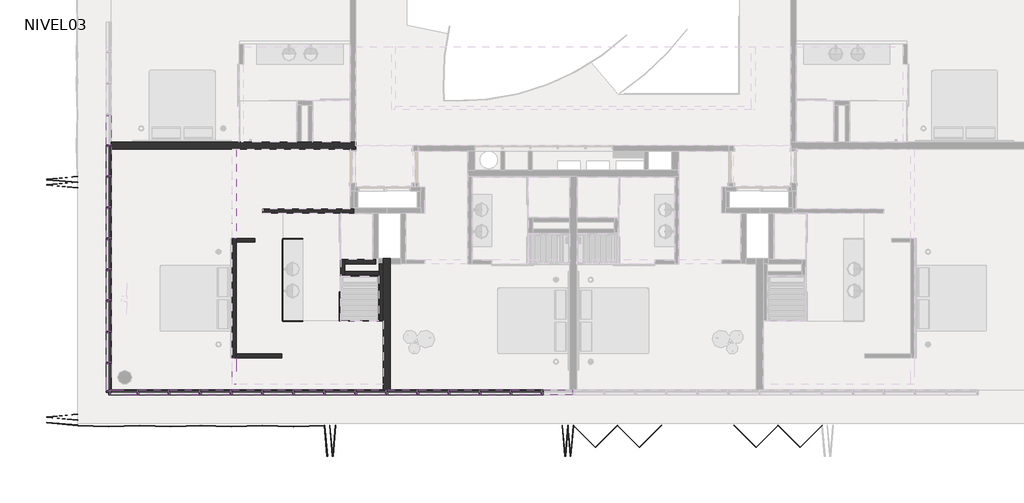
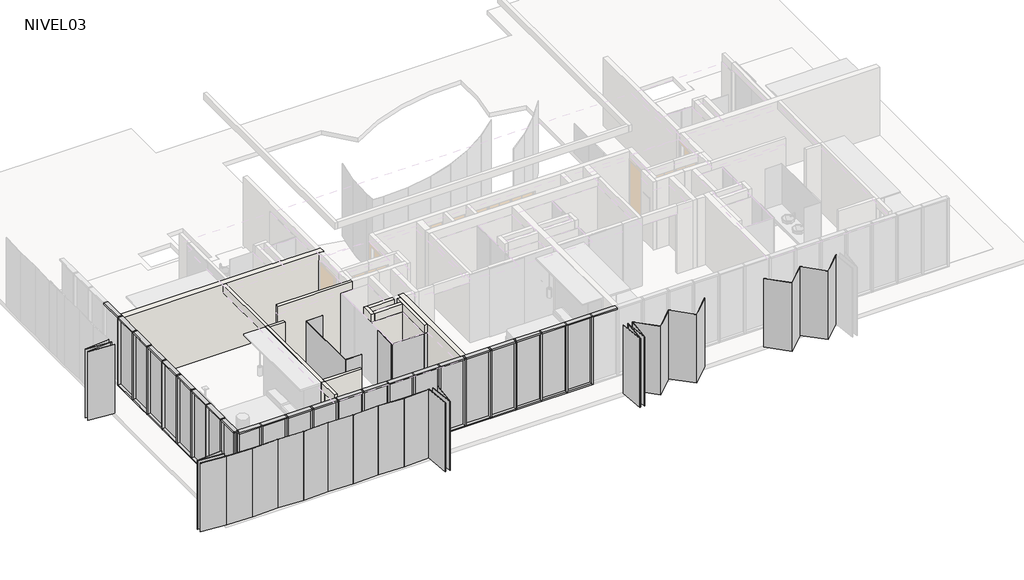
# One storey, part 1 of 8: 70 members, 31 plates, 15 walls.
"""IFC4 building model written with IfcOpenShell, lengths in millimetres."""

from ifc_helpers import new_model, si_unit, frame, origin, place, context, project, spatial, polyline, outline, extrude, faceted_brep, transform, mapped, element, save
from components import rectangular_mullion_50_x_150mm_324a6438, rectangular_mullion_50_x_150mm_d09437e2, rectangular_mullion_50_x_150mm_5dc04e1f, rectangular_mullion_50_x_150mm_33c2bde1, rectangular_mullion_50_x_150mm_da4cfd0d, folding_hd_d22e76f5, folding_hd_folding_hd_45_d1567fec, folding_hd_folding_hd_85_a0ccf00b, folding_hd_folding_hd_85_8b524484, panel_corredera_cr_panel_corredera_0e7ff004, system_panel_cr_shower_eca2249b, system_panel_cr_shower_cd40b9b4, system_panel_cr_shower_8ff19449, system_panel_cr_shower_4114597a, system_panel_glazed_8b1c2311, system_panel_glazed_b40d16d2, system_panel_glazed_24c908d7, system_panel_glazed_6ccc6dc1

model = new_model("IFC4")

# Units and contexts
model_context = context("Model", 3, world=origin())
ifc_project = project(units=[si_unit("LENGTHUNIT", "METRE", prefix="MILLI")], contexts=[model_context])

# Site, building, storey
site = spatial("IfcSite", under=ifc_project)
building = spatial("IfcBuilding", under=site)
storey = spatial("IfcBuildingStorey", under=building, Name="NIVEL03", Elevation=5220.0)

# Members
placement = place(None, origin())
rectangular_mullion_50_x_150mm_shape = rectangular_mullion_50_x_150mm_324a6438(model_context)
element("IfcMember", 1, ObjectType="Rectangular Mullion : 50 x 150mm", at=placement, inside=storey, context=model_context, shape_type="MappedRepresentation", body=[
    mapped(rectangular_mullion_50_x_150mm_shape, transform((-20633.5934748, -241.0860763, 7770.0), x_axis=(0.0, 0.0, 1.0), y_axis=(-1.0, 0.0, 0.0), z_axis=(0.0, -1.0, 0.0))),
])
element("IfcMember", 2, ObjectType="Rectangular Mullion : 50 x 150mm", at=placement, inside=storey, context=model_context, shape_type="MappedRepresentation", body=[
    mapped(rectangular_mullion_50_x_150mm_shape, transform((-20633.5934748, -1141.0860763, 7770.0), x_axis=(0.0, 0.0, 1.0), y_axis=(-1.0, 0.0, 0.0), z_axis=(0.0, -1.0, 0.0))),
])
element("IfcMember", 3, ObjectType="Rectangular Mullion : 50 x 150mm", at=placement, inside=storey, context=model_context, shape_type="MappedRepresentation", body=[
    mapped(rectangular_mullion_50_x_150mm_shape, transform((-20633.5934748, -2041.0860763, 7770.0), x_axis=(0.0, 0.0, 1.0), y_axis=(-1.0, 0.0, 0.0), z_axis=(0.0, -1.0, 0.0))),
])
element("IfcMember", 4, ObjectType="Rectangular Mullion : 50 x 150mm", at=placement, inside=storey, context=model_context, shape_type="MappedRepresentation", body=[
    mapped(rectangular_mullion_50_x_150mm_shape, transform((-20633.5934748, -2941.0860763, 7770.0), x_axis=(0.0, 0.0, 1.0), y_axis=(-1.0, 0.0, 0.0), z_axis=(0.0, -1.0, 0.0))),
])
element("IfcMember", 5, ObjectType="Rectangular Mullion : 50 x 150mm", at=placement, inside=storey, context=model_context, shape_type="MappedRepresentation", body=[
    mapped(rectangular_mullion_50_x_150mm_shape, transform((-20633.5934748, -3841.0860763, 7770.0), x_axis=(0.0, 0.0, 1.0), y_axis=(-1.0, 0.0, 0.0), z_axis=(0.0, -1.0, 0.0))),
])
element("IfcMember", 6, ObjectType="Rectangular Mullion : 50 x 150mm", at=placement, inside=storey, context=model_context, shape_type="MappedRepresentation", body=[
    mapped(rectangular_mullion_50_x_150mm_shape, transform((-20633.5934748, -4741.0860763, 7770.0), x_axis=(0.0, 0.0, 1.0), y_axis=(-1.0, 0.0, 0.0), z_axis=(0.0, -1.0, 0.0))),
])
element("IfcMember", 7, ObjectType="Rectangular Mullion : 50 x 150mm", at=placement, inside=storey, context=model_context, shape_type="MappedRepresentation", body=[
    mapped(rectangular_mullion_50_x_150mm_shape, transform((-20633.5934748, -5641.0860763, 7770.0), x_axis=(0.0, 0.0, 1.0), y_axis=(-1.0, 0.0, 0.0), z_axis=(0.0, -1.0, 0.0))),
])
element("IfcMember", 8, ObjectType="Rectangular Mullion : 50 x 150mm", at=placement, inside=storey, context=model_context, shape_type="MappedRepresentation", body=[
    mapped(rectangular_mullion_50_x_150mm_shape, transform((-20633.5934748, -6541.0860763, 7770.0), x_axis=(0.0, 0.0, 1.0), y_axis=(-1.0, 0.0, 0.0), z_axis=(0.0, -1.0, 0.0))),
])
element("IfcMember", 9, ObjectType="Rectangular Mullion : 50 x 150mm", at=placement, inside=storey, context=model_context, shape_type="MappedRepresentation", body=[
    mapped(rectangular_mullion_50_x_150mm_shape, transform((-20633.5934748, -291.0860763, 5200.0), x_axis=(0.0, 0.0, -1.0), y_axis=(-1.0, 0.0, 0.0), z_axis=(0.0, 1.0, 0.0))),
])
element("IfcMember", 10, ObjectType="Rectangular Mullion : 50 x 150mm", at=placement, inside=storey, context=model_context, shape_type="MappedRepresentation", body=[
    mapped(rectangular_mullion_50_x_150mm_shape, transform((-20633.5934748, -1191.0860763, 5200.0), x_axis=(0.0, 0.0, -1.0), y_axis=(-1.0, 0.0, 0.0), z_axis=(0.0, 1.0, 0.0))),
])
element("IfcMember", 11, ObjectType="Rectangular Mullion : 50 x 150mm", at=placement, inside=storey, context=model_context, shape_type="MappedRepresentation", body=[
    mapped(rectangular_mullion_50_x_150mm_shape, transform((-20633.5934748, -2091.0860763, 5200.0), x_axis=(0.0, 0.0, -1.0), y_axis=(-1.0, 0.0, 0.0), z_axis=(0.0, 1.0, 0.0))),
])
element("IfcMember", 12, ObjectType="Rectangular Mullion : 50 x 150mm", at=placement, inside=storey, context=model_context, shape_type="MappedRepresentation", body=[
    mapped(rectangular_mullion_50_x_150mm_shape, transform((-20633.5934748, -2991.0860763, 5200.0), x_axis=(0.0, 0.0, -1.0), y_axis=(-1.0, 0.0, 0.0), z_axis=(0.0, 1.0, 0.0))),
])
element("IfcMember", 13, ObjectType="Rectangular Mullion : 50 x 150mm", at=placement, inside=storey, context=model_context, shape_type="MappedRepresentation", body=[
    mapped(rectangular_mullion_50_x_150mm_shape, transform((-20633.5934748, -3891.0860763, 5200.0), x_axis=(0.0, 0.0, -1.0), y_axis=(-1.0, 0.0, 0.0), z_axis=(0.0, 1.0, 0.0))),
])
element("IfcMember", 14, ObjectType="Rectangular Mullion : 50 x 150mm", at=placement, inside=storey, context=model_context, shape_type="MappedRepresentation", body=[
    mapped(rectangular_mullion_50_x_150mm_shape, transform((-20633.5934748, -4791.0860763, 5200.0), x_axis=(0.0, 0.0, -1.0), y_axis=(-1.0, 0.0, 0.0), z_axis=(0.0, 1.0, 0.0))),
])
element("IfcMember", 15, ObjectType="Rectangular Mullion : 50 x 150mm", at=placement, inside=storey, context=model_context, shape_type="MappedRepresentation", body=[
    mapped(rectangular_mullion_50_x_150mm_shape, transform((-20633.5934748, -5691.0860763, 5200.0), x_axis=(0.0, 0.0, -1.0), y_axis=(-1.0, 0.0, 0.0), z_axis=(0.0, 1.0, 0.0))),
])
element("IfcMember", 16, ObjectType="Rectangular Mullion : 50 x 150mm", at=placement, inside=storey, context=model_context, shape_type="MappedRepresentation", body=[
    mapped(rectangular_mullion_50_x_150mm_shape, transform((-8058.5934748, -7416.0860759, 7770.0), x_axis=(0.0, 0.0, 1.0), y_axis=(0.0, 1.0, 0.0), z_axis=(-1.0, 0.0, 0.0))),
])
element("IfcMember", 17, ObjectType="Rectangular Mullion : 50 x 150mm", at=placement, inside=storey, context=model_context, shape_type="MappedRepresentation", body=[
    mapped(rectangular_mullion_50_x_150mm_shape, transform((-8958.5934748, -7416.0860759, 7770.0), x_axis=(0.0, 0.0, 1.0), y_axis=(0.0, 1.0, 0.0), z_axis=(-1.0, 0.0, 0.0))),
])
element("IfcMember", 18, ObjectType="Rectangular Mullion : 50 x 150mm", at=placement, inside=storey, context=model_context, shape_type="MappedRepresentation", body=[
    mapped(rectangular_mullion_50_x_150mm_shape, transform((-9858.5934748, -7416.0860759, 7770.0), x_axis=(0.0, 0.0, 1.0), y_axis=(0.0, 1.0, 0.0), z_axis=(-1.0, 0.0, 0.0))),
])
element("IfcMember", 19, ObjectType="Rectangular Mullion : 50 x 150mm", at=placement, inside=storey, context=model_context, shape_type="MappedRepresentation", body=[
    mapped(rectangular_mullion_50_x_150mm_shape, transform((-10758.5934748, -7416.0860759, 7770.0), x_axis=(0.0, 0.0, 1.0), y_axis=(0.0, 1.0, 0.0), z_axis=(-1.0, 0.0, 0.0))),
])
element("IfcMember", 20, ObjectType="Rectangular Mullion : 50 x 150mm", at=placement, inside=storey, context=model_context, shape_type="MappedRepresentation", body=[
    mapped(rectangular_mullion_50_x_150mm_shape, transform((-11658.5934748, -7416.0860759, 7770.0), x_axis=(0.0, 0.0, 1.0), y_axis=(0.0, 1.0, 0.0), z_axis=(-1.0, 0.0, 0.0))),
])
element("IfcMember", 21, ObjectType="Rectangular Mullion : 50 x 150mm", at=placement, inside=storey, context=model_context, shape_type="MappedRepresentation", body=[
    mapped(rectangular_mullion_50_x_150mm_shape, transform((-12558.5934748, -7416.0860759, 7770.0), x_axis=(0.0, 0.0, 1.0), y_axis=(0.0, 1.0, 0.0), z_axis=(-1.0, 0.0, 0.0))),
])
element("IfcMember", 22, ObjectType="Rectangular Mullion : 50 x 150mm", at=placement, inside=storey, context=model_context, shape_type="MappedRepresentation", body=[
    mapped(rectangular_mullion_50_x_150mm_shape, transform((-13458.5934748, -7416.0860759, 7770.0), x_axis=(0.0, 0.0, 1.0), y_axis=(0.0, 1.0, 0.0), z_axis=(-1.0, 0.0, 0.0))),
])
element("IfcMember", 23, ObjectType="Rectangular Mullion : 50 x 150mm", at=placement, inside=storey, context=model_context, shape_type="MappedRepresentation", body=[
    mapped(rectangular_mullion_50_x_150mm_shape, transform((-14358.5934748, -7416.0860759, 7770.0), x_axis=(0.0, 0.0, 1.0), y_axis=(0.0, 1.0, 0.0), z_axis=(-1.0, 0.0, 0.0))),
])
element("IfcMember", 24, ObjectType="Rectangular Mullion : 50 x 150mm", at=placement, inside=storey, context=model_context, shape_type="MappedRepresentation", body=[
    mapped(rectangular_mullion_50_x_150mm_shape, transform((-15258.5934748, -7416.0860759, 7770.0), x_axis=(0.0, 0.0, 1.0), y_axis=(0.0, 1.0, 0.0), z_axis=(-1.0, 0.0, 0.0))),
])
element("IfcMember", 25, ObjectType="Rectangular Mullion : 50 x 150mm", at=placement, inside=storey, context=model_context, shape_type="MappedRepresentation", body=[
    mapped(rectangular_mullion_50_x_150mm_shape, transform((-16158.5934748, -7416.0860759, 7770.0), x_axis=(0.0, 0.0, 1.0), y_axis=(0.0, 1.0, 0.0), z_axis=(-1.0, 0.0, 0.0))),
])
element("IfcMember", 26, ObjectType="Rectangular Mullion : 50 x 150mm", at=placement, inside=storey, context=model_context, shape_type="MappedRepresentation", body=[
    mapped(rectangular_mullion_50_x_150mm_shape, transform((-17058.5934748, -7416.0860759, 7770.0), x_axis=(0.0, 0.0, 1.0), y_axis=(0.0, 1.0, 0.0), z_axis=(-1.0, 0.0, 0.0))),
])
element("IfcMember", 27, ObjectType="Rectangular Mullion : 50 x 150mm", at=placement, inside=storey, context=model_context, shape_type="MappedRepresentation", body=[
    mapped(rectangular_mullion_50_x_150mm_shape, transform((-17958.5934748, -7416.0860759, 7770.0), x_axis=(0.0, 0.0, 1.0), y_axis=(0.0, 1.0, 0.0), z_axis=(-1.0, 0.0, 0.0))),
])
element("IfcMember", 28, ObjectType="Rectangular Mullion : 50 x 150mm", at=placement, inside=storey, context=model_context, shape_type="MappedRepresentation", body=[
    mapped(rectangular_mullion_50_x_150mm_shape, transform((-18858.5934748, -7416.0860759, 7770.0), x_axis=(0.0, 0.0, 1.0), y_axis=(0.0, 1.0, 0.0), z_axis=(-1.0, 0.0, 0.0))),
])
element("IfcMember", 29, ObjectType="Rectangular Mullion : 50 x 150mm", at=placement, inside=storey, context=model_context, shape_type="MappedRepresentation", body=[
    mapped(rectangular_mullion_50_x_150mm_shape, transform((-19758.5934748, -7416.0860759, 7770.0), x_axis=(0.0, 0.0, 1.0), y_axis=(0.0, 1.0, 0.0), z_axis=(-1.0, 0.0, 0.0))),
])
element("IfcMember", 30, ObjectType="Rectangular Mullion : 50 x 150mm", at=placement, inside=storey, context=model_context, shape_type="MappedRepresentation", body=[
    mapped(rectangular_mullion_50_x_150mm_shape, transform((-8108.5934748, -7416.0860759, 5200.0), x_axis=(0.0, 0.0, -1.0), y_axis=(0.0, 1.0, 0.0), z_axis=(1.0, 0.0, 0.0))),
])
element("IfcMember", 31, ObjectType="Rectangular Mullion : 50 x 150mm", at=placement, inside=storey, context=model_context, shape_type="MappedRepresentation", body=[
    mapped(rectangular_mullion_50_x_150mm_shape, transform((-9008.5934748, -7416.0860759, 5200.0), x_axis=(0.0, 0.0, -1.0), y_axis=(0.0, 1.0, 0.0), z_axis=(1.0, 0.0, 0.0))),
])
element("IfcMember", 32, ObjectType="Rectangular Mullion : 50 x 150mm", at=placement, inside=storey, context=model_context, shape_type="MappedRepresentation", body=[
    mapped(rectangular_mullion_50_x_150mm_shape, transform((-9908.5934748, -7416.0860759, 5200.0), x_axis=(0.0, 0.0, -1.0), y_axis=(0.0, 1.0, 0.0), z_axis=(1.0, 0.0, 0.0))),
])
element("IfcMember", 33, ObjectType="Rectangular Mullion : 50 x 150mm", at=placement, inside=storey, context=model_context, shape_type="MappedRepresentation", body=[
    mapped(rectangular_mullion_50_x_150mm_shape, transform((-10808.5934748, -7416.0860759, 5200.0), x_axis=(0.0, 0.0, -1.0), y_axis=(0.0, 1.0, 0.0), z_axis=(1.0, 0.0, 0.0))),
])
element("IfcMember", 34, ObjectType="Rectangular Mullion : 50 x 150mm", at=placement, inside=storey, context=model_context, shape_type="MappedRepresentation", body=[
    mapped(rectangular_mullion_50_x_150mm_shape, transform((-11708.5934748, -7416.0860759, 5200.0), x_axis=(0.0, 0.0, -1.0), y_axis=(0.0, 1.0, 0.0), z_axis=(1.0, 0.0, 0.0))),
])
element("IfcMember", 35, ObjectType="Rectangular Mullion : 50 x 150mm", at=placement, inside=storey, context=model_context, shape_type="MappedRepresentation", body=[
    mapped(rectangular_mullion_50_x_150mm_shape, transform((-12608.5934748, -7416.0860759, 5200.0), x_axis=(0.0, 0.0, -1.0), y_axis=(0.0, 1.0, 0.0), z_axis=(1.0, 0.0, 0.0))),
])
element("IfcMember", 36, ObjectType="Rectangular Mullion : 50 x 150mm", at=placement, inside=storey, context=model_context, shape_type="MappedRepresentation", body=[
    mapped(rectangular_mullion_50_x_150mm_shape, transform((-13508.5934748, -7416.0860759, 5200.0), x_axis=(0.0, 0.0, -1.0), y_axis=(0.0, 1.0, 0.0), z_axis=(1.0, 0.0, 0.0))),
])
element("IfcMember", 37, ObjectType="Rectangular Mullion : 50 x 150mm", at=placement, inside=storey, context=model_context, shape_type="MappedRepresentation", body=[
    mapped(rectangular_mullion_50_x_150mm_shape, transform((-14408.5934748, -7416.0860759, 5200.0), x_axis=(0.0, 0.0, -1.0), y_axis=(0.0, 1.0, 0.0), z_axis=(1.0, 0.0, 0.0))),
])
element("IfcMember", 38, ObjectType="Rectangular Mullion : 50 x 150mm", at=placement, inside=storey, context=model_context, shape_type="MappedRepresentation", body=[
    mapped(rectangular_mullion_50_x_150mm_shape, transform((-15308.5934748, -7416.0860759, 5200.0), x_axis=(0.0, 0.0, -1.0), y_axis=(0.0, 1.0, 0.0), z_axis=(1.0, 0.0, 0.0))),
])
element("IfcMember", 39, ObjectType="Rectangular Mullion : 50 x 150mm", at=placement, inside=storey, context=model_context, shape_type="MappedRepresentation", body=[
    mapped(rectangular_mullion_50_x_150mm_shape, transform((-16208.5934748, -7416.0860759, 5200.0), x_axis=(0.0, 0.0, -1.0), y_axis=(0.0, 1.0, 0.0), z_axis=(1.0, 0.0, 0.0))),
])
element("IfcMember", 40, ObjectType="Rectangular Mullion : 50 x 150mm", at=placement, inside=storey, context=model_context, shape_type="MappedRepresentation", body=[
    mapped(rectangular_mullion_50_x_150mm_shape, transform((-17108.5934748, -7416.0860759, 5200.0), x_axis=(0.0, 0.0, -1.0), y_axis=(0.0, 1.0, 0.0), z_axis=(1.0, 0.0, 0.0))),
])
element("IfcMember", 41, ObjectType="Rectangular Mullion : 50 x 150mm", at=placement, inside=storey, context=model_context, shape_type="MappedRepresentation", body=[
    mapped(rectangular_mullion_50_x_150mm_shape, transform((-18008.5934748, -7416.0860759, 5200.0), x_axis=(0.0, 0.0, -1.0), y_axis=(0.0, 1.0, 0.0), z_axis=(1.0, 0.0, 0.0))),
])
element("IfcMember", 42, ObjectType="Rectangular Mullion : 50 x 150mm", at=placement, inside=storey, context=model_context, shape_type="MappedRepresentation", body=[
    mapped(rectangular_mullion_50_x_150mm_shape, transform((-18908.5934748, -7416.0860759, 5200.0), x_axis=(0.0, 0.0, -1.0), y_axis=(0.0, 1.0, 0.0), z_axis=(1.0, 0.0, 0.0))),
])
rectangular_mullion_50_x_150mm_2_shape = rectangular_mullion_50_x_150mm_d09437e2(model_context)
element("IfcMember", 43, ObjectType="Rectangular Mullion : 50 x 150mm", at=placement, inside=storey, context=model_context, shape_type="MappedRepresentation", body=[
    mapped(rectangular_mullion_50_x_150mm_2_shape, transform((-20633.5934748, -7366.0860759, 7770.0), x_axis=(0.0, 0.0, 1.0), y_axis=(-1.0, 0.0, 0.0), z_axis=(0.0, -1.0, 0.0))),
])
element("IfcMember", 44, ObjectType="Rectangular Mullion : 50 x 150mm", at=placement, inside=storey, context=model_context, shape_type="MappedRepresentation", body=[
    mapped(rectangular_mullion_50_x_150mm_2_shape, transform((-20633.5934748, -6591.0860763, 5200.0), x_axis=(0.0, 0.0, -1.0), y_axis=(-1.0, 0.0, 0.0), z_axis=(0.0, 1.0, 0.0))),
])
rectangular_mullion_50_x_150mm_3_shape = rectangular_mullion_50_x_150mm_5dc04e1f(model_context)
element("IfcMember", 45, ObjectType="Rectangular Mullion : 50 x 150mm", at=placement, inside=storey, context=model_context, shape_type="MappedRepresentation", body=[
    mapped(rectangular_mullion_50_x_150mm_3_shape, transform((-20583.5934748, -7416.0860759, 7770.0), x_axis=(0.0, 0.0, 1.0), y_axis=(0.0, 1.0, 0.0), z_axis=(-1.0, 0.0, 0.0))),
])
element("IfcMember", 46, ObjectType="Rectangular Mullion : 50 x 150mm", at=placement, inside=storey, context=model_context, shape_type="MappedRepresentation", body=[
    mapped(rectangular_mullion_50_x_150mm_3_shape, transform((-19808.5934748, -7416.0860759, 5200.0), x_axis=(0.0, 0.0, -1.0), y_axis=(0.0, 1.0, 0.0), z_axis=(1.0, 0.0, 0.0))),
])
rectangular_mullion_50_x_150mm_4_shape = rectangular_mullion_50_x_150mm_33c2bde1(model_context)
element("IfcMember", 47, ObjectType="Rectangular Mullion : 50 x 150mm", at=placement, inside=storey, context=model_context, shape_type="MappedRepresentation", body=[
    mapped(rectangular_mullion_50_x_150mm_4_shape, transform((-20633.5934748, -266.0860763, 5200.0), x_axis=(0.0, -1.0, 0.0), y_axis=(-1.0, 0.0, 0.0), z_axis=(0.0, 0.0, -1.0))),
])
element("IfcMember", 48, ObjectType="Rectangular Mullion : 50 x 150mm", at=placement, inside=storey, context=model_context, shape_type="MappedRepresentation", body=[
    mapped(rectangular_mullion_50_x_150mm_4_shape, transform((-20633.5934748, -1166.0860763, 5200.0), x_axis=(0.0, -1.0, 0.0), y_axis=(-1.0, 0.0, 0.0), z_axis=(0.0, 0.0, -1.0))),
])
element("IfcMember", 49, ObjectType="Rectangular Mullion : 50 x 150mm", at=placement, inside=storey, context=model_context, shape_type="MappedRepresentation", body=[
    mapped(rectangular_mullion_50_x_150mm_4_shape, transform((-20633.5934748, -2066.0860763, 5200.0), x_axis=(0.0, -1.0, 0.0), y_axis=(-1.0, 0.0, 0.0), z_axis=(0.0, 0.0, -1.0))),
])
element("IfcMember", 50, ObjectType="Rectangular Mullion : 50 x 150mm", at=placement, inside=storey, context=model_context, shape_type="MappedRepresentation", body=[
    mapped(rectangular_mullion_50_x_150mm_4_shape, transform((-20633.5934748, -2966.0860763, 5200.0), x_axis=(0.0, -1.0, 0.0), y_axis=(-1.0, 0.0, 0.0), z_axis=(0.0, 0.0, -1.0))),
])
element("IfcMember", 51, ObjectType="Rectangular Mullion : 50 x 150mm", at=placement, inside=storey, context=model_context, shape_type="MappedRepresentation", body=[
    mapped(rectangular_mullion_50_x_150mm_4_shape, transform((-20633.5934748, -3866.0860763, 5200.0), x_axis=(0.0, -1.0, 0.0), y_axis=(-1.0, 0.0, 0.0), z_axis=(0.0, 0.0, -1.0))),
])
element("IfcMember", 52, ObjectType="Rectangular Mullion : 50 x 150mm", at=placement, inside=storey, context=model_context, shape_type="MappedRepresentation", body=[
    mapped(rectangular_mullion_50_x_150mm_4_shape, transform((-20633.5934748, -4766.0860763, 5200.0), x_axis=(0.0, -1.0, 0.0), y_axis=(-1.0, 0.0, 0.0), z_axis=(0.0, 0.0, -1.0))),
])
element("IfcMember", 53, ObjectType="Rectangular Mullion : 50 x 150mm", at=placement, inside=storey, context=model_context, shape_type="MappedRepresentation", body=[
    mapped(rectangular_mullion_50_x_150mm_4_shape, transform((-20633.5934748, -5666.0860763, 5200.0), x_axis=(0.0, -1.0, 0.0), y_axis=(-1.0, 0.0, 0.0), z_axis=(0.0, 0.0, -1.0))),
])
element("IfcMember", 54, ObjectType="Rectangular Mullion : 50 x 150mm", at=placement, inside=storey, context=model_context, shape_type="MappedRepresentation", body=[
    mapped(rectangular_mullion_50_x_150mm_4_shape, transform((-20633.5934748, -6566.0860763, 5200.0), x_axis=(0.0, -1.0, 0.0), y_axis=(-1.0, 0.0, 0.0), z_axis=(0.0, 0.0, -1.0))),
])
rectangular_mullion_50_x_150mm_5_shape = rectangular_mullion_50_x_150mm_da4cfd0d(model_context)
element("IfcMember", 55, ObjectType="Rectangular Mullion : 50 x 150mm", at=placement, inside=storey, context=model_context, shape_type="MappedRepresentation", body=[
    mapped(rectangular_mullion_50_x_150mm_5_shape, transform((-20633.5934748, -7416.0860759, 5200.0), x_axis=(0.0, -1.0, 0.0), y_axis=(-1.0, 0.0, 0.0), z_axis=(0.0, 0.0, -1.0))),
])
element("IfcMember", 56, ObjectType="Rectangular Mullion : 50 x 150mm", at=placement, inside=storey, context=model_context, shape_type="MappedRepresentation", body=[
    mapped(rectangular_mullion_50_x_150mm_4_shape, transform((-8083.5934748, -7416.0860759, 5200.0), x_axis=(-1.0, 0.0, 0.0), y_axis=(0.0, 1.0, 0.0), z_axis=(0.0, 0.0, -1.0))),
])
element("IfcMember", 57, ObjectType="Rectangular Mullion : 50 x 150mm", at=placement, inside=storey, context=model_context, shape_type="MappedRepresentation", body=[
    mapped(rectangular_mullion_50_x_150mm_4_shape, transform((-8983.5934748, -7416.0860759, 5200.0), x_axis=(-1.0, 0.0, 0.0), y_axis=(0.0, 1.0, 0.0), z_axis=(0.0, 0.0, -1.0))),
])
element("IfcMember", 58, ObjectType="Rectangular Mullion : 50 x 150mm", at=placement, inside=storey, context=model_context, shape_type="MappedRepresentation", body=[
    mapped(rectangular_mullion_50_x_150mm_4_shape, transform((-9883.5934748, -7416.0860759, 5200.0), x_axis=(-1.0, 0.0, 0.0), y_axis=(0.0, 1.0, 0.0), z_axis=(0.0, 0.0, -1.0))),
])
element("IfcMember", 59, ObjectType="Rectangular Mullion : 50 x 150mm", at=placement, inside=storey, context=model_context, shape_type="MappedRepresentation", body=[
    mapped(rectangular_mullion_50_x_150mm_4_shape, transform((-10783.5934748, -7416.0860759, 5200.0), x_axis=(-1.0, 0.0, 0.0), y_axis=(0.0, 1.0, 0.0), z_axis=(0.0, 0.0, -1.0))),
])
element("IfcMember", 60, ObjectType="Rectangular Mullion : 50 x 150mm", at=placement, inside=storey, context=model_context, shape_type="MappedRepresentation", body=[
    mapped(rectangular_mullion_50_x_150mm_4_shape, transform((-11683.5934748, -7416.0860759, 5200.0), x_axis=(-1.0, 0.0, 0.0), y_axis=(0.0, 1.0, 0.0), z_axis=(0.0, 0.0, -1.0))),
])
element("IfcMember", 61, ObjectType="Rectangular Mullion : 50 x 150mm", at=placement, inside=storey, context=model_context, shape_type="MappedRepresentation", body=[
    mapped(rectangular_mullion_50_x_150mm_4_shape, transform((-12583.5934748, -7416.0860759, 5200.0), x_axis=(-1.0, 0.0, 0.0), y_axis=(0.0, 1.0, 0.0), z_axis=(0.0, 0.0, -1.0))),
])
element("IfcMember", 62, ObjectType="Rectangular Mullion : 50 x 150mm", at=placement, inside=storey, context=model_context, shape_type="MappedRepresentation", body=[
    mapped(rectangular_mullion_50_x_150mm_4_shape, transform((-13483.5934748, -7416.0860759, 5200.0), x_axis=(-1.0, 0.0, 0.0), y_axis=(0.0, 1.0, 0.0), z_axis=(0.0, 0.0, -1.0))),
])
element("IfcMember", 63, ObjectType="Rectangular Mullion : 50 x 150mm", at=placement, inside=storey, context=model_context, shape_type="MappedRepresentation", body=[
    mapped(rectangular_mullion_50_x_150mm_4_shape, transform((-14383.5934748, -7416.0860759, 5200.0), x_axis=(-1.0, 0.0, 0.0), y_axis=(0.0, 1.0, 0.0), z_axis=(0.0, 0.0, -1.0))),
])
element("IfcMember", 64, ObjectType="Rectangular Mullion : 50 x 150mm", at=placement, inside=storey, context=model_context, shape_type="MappedRepresentation", body=[
    mapped(rectangular_mullion_50_x_150mm_4_shape, transform((-15283.5934748, -7416.0860759, 5200.0), x_axis=(-1.0, 0.0, 0.0), y_axis=(0.0, 1.0, 0.0), z_axis=(0.0, 0.0, -1.0))),
])
element("IfcMember", 65, ObjectType="Rectangular Mullion : 50 x 150mm", at=placement, inside=storey, context=model_context, shape_type="MappedRepresentation", body=[
    mapped(rectangular_mullion_50_x_150mm_4_shape, transform((-16183.5934748, -7416.0860759, 5200.0), x_axis=(-1.0, 0.0, 0.0), y_axis=(0.0, 1.0, 0.0), z_axis=(0.0, 0.0, -1.0))),
])
element("IfcMember", 66, ObjectType="Rectangular Mullion : 50 x 150mm", at=placement, inside=storey, context=model_context, shape_type="MappedRepresentation", body=[
    mapped(rectangular_mullion_50_x_150mm_4_shape, transform((-17083.5934748, -7416.0860759, 5200.0), x_axis=(-1.0, 0.0, 0.0), y_axis=(0.0, 1.0, 0.0), z_axis=(0.0, 0.0, -1.0))),
])
element("IfcMember", 67, ObjectType="Rectangular Mullion : 50 x 150mm", at=placement, inside=storey, context=model_context, shape_type="MappedRepresentation", body=[
    mapped(rectangular_mullion_50_x_150mm_4_shape, transform((-17983.5934748, -7416.0860759, 5200.0), x_axis=(-1.0, 0.0, 0.0), y_axis=(0.0, 1.0, 0.0), z_axis=(0.0, 0.0, -1.0))),
])
element("IfcMember", 68, ObjectType="Rectangular Mullion : 50 x 150mm", at=placement, inside=storey, context=model_context, shape_type="MappedRepresentation", body=[
    mapped(rectangular_mullion_50_x_150mm_4_shape, transform((-18883.5934748, -7416.0860759, 5200.0), x_axis=(-1.0, 0.0, 0.0), y_axis=(0.0, 1.0, 0.0), z_axis=(0.0, 0.0, -1.0))),
])
element("IfcMember", 69, ObjectType="Rectangular Mullion : 50 x 150mm", at=placement, inside=storey, context=model_context, shape_type="MappedRepresentation", body=[
    mapped(rectangular_mullion_50_x_150mm_4_shape, transform((-19783.5934748, -7416.0860759, 5200.0), x_axis=(-1.0, 0.0, 0.0), y_axis=(0.0, 1.0, 0.0), z_axis=(0.0, 0.0, -1.0))),
])
element("IfcMember", 70, ObjectType="Rectangular Mullion : 50 x 150mm", at=placement, inside=storey, context=model_context, shape_type="MappedRepresentation", body=[
    mapped(rectangular_mullion_50_x_150mm_5_shape, transform((-20633.5934748, -7416.0860759, 5200.0), x_axis=(-1.0, 0.0, 0.0), y_axis=(0.0, 1.0, 0.0), z_axis=(0.0, 0.0, -1.0))),
])

# Plates
folding_hd_shape = folding_hd_d22e76f5(model_context)
element("IfcPlate", 71, ObjectType="FOLDING HD : FOLDING HD-90-2°", at=placement, inside=storey, context=model_context, shape_type="MappedRepresentation", body=[
    mapped(folding_hd_shape, transform((-17958.5934748, -8366.0860759, 5200.0), x_axis=(-1.0, 0.0, 0.0), y_axis=(0.0, -1.0, 0.0), z_axis=(0.0, 0.0, 1.0))),
])
folding_hd_folding_hd_45_shape = folding_hd_folding_hd_45_d1567fec(model_context)
element("IfcPlate", 72, ObjectType="FOLDING HD : FOLDING HD 45", at=placement, inside=storey, context=model_context, shape_type="MappedRepresentation", body=[
    mapped(folding_hd_folding_hd_45_shape, transform((-3583.5934748, -8366.0860759, 5200.0), x_axis=(-1.0, 0.0, 0.0), y_axis=(0.0, -1.0, 0.0), z_axis=(0.0, 0.0, 1.0))),
])
folding_hd_folding_hd_85_shape = folding_hd_folding_hd_85_a0ccf00b(model_context)
element("IfcPlate", 73, ObjectType="FOLDING HD : FOLDING HD 85", at=placement, inside=storey, context=model_context, shape_type="MappedRepresentation", body=[
    mapped(folding_hd_folding_hd_85_shape, transform((-10783.5934748, -8366.0860759, 5200.0), x_axis=(-1.0, 0.0, 0.0), y_axis=(0.0, -1.0, 0.0), z_axis=(0.0, 0.0, 1.0))),
])
folding_hd_folding_hd_85_2_shape = folding_hd_folding_hd_85_8b524484(model_context)
element("IfcPlate", 74, ObjectType="FOLDING HD : FOLDING HD 85", at=placement, inside=storey, context=model_context, shape_type="MappedRepresentation", body=[
    mapped(folding_hd_folding_hd_85_2_shape, transform((-21533.5934748, -4766.0860759, 5200.0), x_axis=(0.0, -1.0, 0.0), y_axis=(1.0, 0.0, 0.0), z_axis=(0.0, 0.0, 1.0))),
])
panel_corredera_cr_panel_corredera_shape = panel_corredera_cr_panel_corredera_0e7ff004(model_context)
element("IfcPlate", 75, ObjectType="PANEL CORREDERA : CR_PANEL CORREDERA", at=placement, inside=storey, context=model_context, shape_type="MappedRepresentation", body=[
    mapped(panel_corredera_cr_panel_corredera_shape, transform((-13913.6434748, -4991.5697221, 5220.0), x_axis=(0.0, 1.0, 0.0), y_axis=(-1.0, 0.0, 0.0), z_axis=(0.0, 0.0, 1.0))),
])
system_panel_cr_shower_shape = system_panel_cr_shower_eca2249b(model_context)
element("IfcPlate", 76, ObjectType="System Panel : CR-SHOWER", at=placement, inside=storey, context=model_context, shape_type="MappedRepresentation", body=[
    mapped(system_panel_cr_shower_shape, transform((-13298.6184748, -5336.1362189, 5220.0), x_axis=(-1.0, 0.0, 0.0), y_axis=(0.0, -1.0, 0.0), z_axis=(0.0, 0.0, 1.0))),
])
system_panel_cr_shower_2_shape = system_panel_cr_shower_cd40b9b4(model_context)
element("IfcPlate", 77, ObjectType="System Panel : CR-SHOWER", at=placement, inside=storey, context=model_context, shape_type="MappedRepresentation", body=[
    mapped(system_panel_cr_shower_2_shape, transform((-15593.5934748, -4164.8462541, 5220.0), x_axis=(0.0, 1.0, 0.0), y_axis=(-1.0, 0.0, 0.0), z_axis=(0.0, 0.0, 1.0))),
])
system_panel_cr_shower_3_shape = system_panel_cr_shower_8ff19449(model_context)
element("IfcPlate", 78, ObjectType="System Panel : CR-SHOWER", at=placement, inside=storey, context=model_context, shape_type="MappedRepresentation", body=[
    mapped(system_panel_cr_shower_3_shape, transform((-15303.5934748, -5348.5862189, 5220.0), x_axis=(-1.0, 0.0, 0.0), y_axis=(0.0, -1.0, 0.0), z_axis=(0.0, 0.0, 1.0))),
])
system_panel_cr_shower_4_shape = system_panel_cr_shower_4114597a(model_context)
element("IfcPlate", 79, ObjectType="System Panel : CR-SHOWER", at=placement, inside=storey, context=model_context, shape_type="MappedRepresentation", body=[
    mapped(system_panel_cr_shower_4_shape, transform((-15303.5934748, -2966.0860763, 5220.0), x_axis=(-1.0, 0.0, 0.0), y_axis=(0.0, -1.0, 0.0), z_axis=(0.0, 0.0, 1.0))),
])
system_panel_glazed_shape = system_panel_glazed_8b1c2311(model_context)
element("IfcPlate", 80, ObjectType="System Panel : Glazed", at=placement, inside=storey, context=model_context, shape_type="MappedRepresentation", body=[
    mapped(system_panel_glazed_shape, transform((-20633.5934748, -716.0860763, 5250.0), x_axis=(0.0, -1.0, 0.0), y_axis=(1.0, 0.0, 0.0), z_axis=(0.0, 0.0, 1.0))),
])
element("IfcPlate", 81, ObjectType="System Panel : Glazed", at=placement, inside=storey, context=model_context, shape_type="MappedRepresentation", body=[
    mapped(system_panel_glazed_shape, transform((-20633.5934748, -1616.0860763, 5250.0), x_axis=(0.0, -1.0, 0.0), y_axis=(1.0, 0.0, 0.0), z_axis=(0.0, 0.0, 1.0))),
])
element("IfcPlate", 82, ObjectType="System Panel : Glazed", at=placement, inside=storey, context=model_context, shape_type="MappedRepresentation", body=[
    mapped(system_panel_glazed_shape, transform((-20633.5934748, -2516.0860763, 5250.0), x_axis=(0.0, -1.0, 0.0), y_axis=(1.0, 0.0, 0.0), z_axis=(0.0, 0.0, 1.0))),
])
element("IfcPlate", 83, ObjectType="System Panel : Glazed", at=placement, inside=storey, context=model_context, shape_type="MappedRepresentation", body=[
    mapped(system_panel_glazed_shape, transform((-20633.5934748, -3416.0860763, 5250.0), x_axis=(0.0, -1.0, 0.0), y_axis=(1.0, 0.0, 0.0), z_axis=(0.0, 0.0, 1.0))),
])
element("IfcPlate", 84, ObjectType="System Panel : Glazed", at=placement, inside=storey, context=model_context, shape_type="MappedRepresentation", body=[
    mapped(system_panel_glazed_shape, transform((-20633.5934748, -4316.0860763, 5250.0), x_axis=(0.0, -1.0, 0.0), y_axis=(1.0, 0.0, 0.0), z_axis=(0.0, 0.0, 1.0))),
])
element("IfcPlate", 85, ObjectType="System Panel : Glazed", at=placement, inside=storey, context=model_context, shape_type="MappedRepresentation", body=[
    mapped(system_panel_glazed_shape, transform((-20633.5934748, -5216.0860763, 5250.0), x_axis=(0.0, -1.0, 0.0), y_axis=(1.0, 0.0, 0.0), z_axis=(0.0, 0.0, 1.0))),
])
element("IfcPlate", 86, ObjectType="System Panel : Glazed", at=placement, inside=storey, context=model_context, shape_type="MappedRepresentation", body=[
    mapped(system_panel_glazed_shape, transform((-20633.5934748, -6116.0860763, 5250.0), x_axis=(0.0, -1.0, 0.0), y_axis=(1.0, 0.0, 0.0), z_axis=(0.0, 0.0, 1.0))),
])
system_panel_glazed_2_shape = system_panel_glazed_b40d16d2(model_context)
element("IfcPlate", 87, ObjectType="System Panel : Glazed", at=placement, inside=storey, context=model_context, shape_type="MappedRepresentation", body=[
    mapped(system_panel_glazed_2_shape, transform((-20633.5934748, -6978.5860761, 5250.0), x_axis=(0.0, -1.0, 0.0), y_axis=(1.0, 0.0, 0.0), z_axis=(0.0, 0.0, 1.0))),
])
system_panel_glazed_3_shape = system_panel_glazed_24c908d7(model_context)
element("IfcPlate", 88, ObjectType="System Panel : Glazed", at=placement, inside=storey, context=model_context, shape_type="MappedRepresentation", body=[
    mapped(system_panel_glazed_3_shape, transform((-20196.0934748, -7416.0860759, 5250.0), x_axis=(-1.0, 0.0, 0.0), y_axis=(0.0, -1.0, 0.0), z_axis=(0.0, 0.0, 1.0))),
])
system_panel_glazed_4_shape = system_panel_glazed_6ccc6dc1(model_context)
element("IfcPlate", 89, ObjectType="System Panel : Glazed", at=placement, inside=storey, context=model_context, shape_type="MappedRepresentation", body=[
    mapped(system_panel_glazed_4_shape, transform((-8533.5934748, -7416.0860759, 5250.0), x_axis=(-1.0, 0.0, 0.0), y_axis=(0.0, -1.0, 0.0), z_axis=(0.0, 0.0, 1.0))),
])
element("IfcPlate", 90, ObjectType="System Panel : Glazed", at=placement, inside=storey, context=model_context, shape_type="MappedRepresentation", body=[
    mapped(system_panel_glazed_4_shape, transform((-9433.5934748, -7416.0860759, 5250.0), x_axis=(-1.0, 0.0, 0.0), y_axis=(0.0, -1.0, 0.0), z_axis=(0.0, 0.0, 1.0))),
])
element("IfcPlate", 91, ObjectType="System Panel : Glazed", at=placement, inside=storey, context=model_context, shape_type="MappedRepresentation", body=[
    mapped(system_panel_glazed_4_shape, transform((-10333.5934748, -7416.0860759, 5250.0), x_axis=(-1.0, 0.0, 0.0), y_axis=(0.0, -1.0, 0.0), z_axis=(0.0, 0.0, 1.0))),
])
element("IfcPlate", 92, ObjectType="System Panel : Glazed", at=placement, inside=storey, context=model_context, shape_type="MappedRepresentation", body=[
    mapped(system_panel_glazed_4_shape, transform((-11233.5934748, -7416.0860759, 5250.0), x_axis=(-1.0, 0.0, 0.0), y_axis=(0.0, -1.0, 0.0), z_axis=(0.0, 0.0, 1.0))),
])
element("IfcPlate", 93, ObjectType="System Panel : Glazed", at=placement, inside=storey, context=model_context, shape_type="MappedRepresentation", body=[
    mapped(system_panel_glazed_4_shape, transform((-12133.5934748, -7416.0860759, 5250.0), x_axis=(-1.0, 0.0, 0.0), y_axis=(0.0, -1.0, 0.0), z_axis=(0.0, 0.0, 1.0))),
])
element("IfcPlate", 94, ObjectType="System Panel : Glazed", at=placement, inside=storey, context=model_context, shape_type="MappedRepresentation", body=[
    mapped(system_panel_glazed_4_shape, transform((-13033.5934748, -7416.0860759, 5250.0), x_axis=(-1.0, 0.0, 0.0), y_axis=(0.0, -1.0, 0.0), z_axis=(0.0, 0.0, 1.0))),
])
element("IfcPlate", 95, ObjectType="System Panel : Glazed", at=placement, inside=storey, context=model_context, shape_type="MappedRepresentation", body=[
    mapped(system_panel_glazed_4_shape, transform((-13933.5934748, -7416.0860759, 5250.0), x_axis=(-1.0, 0.0, 0.0), y_axis=(0.0, -1.0, 0.0), z_axis=(0.0, 0.0, 1.0))),
])
element("IfcPlate", 96, ObjectType="System Panel : Glazed", at=placement, inside=storey, context=model_context, shape_type="MappedRepresentation", body=[
    mapped(system_panel_glazed_4_shape, transform((-14833.5934748, -7416.0860759, 5250.0), x_axis=(-1.0, 0.0, 0.0), y_axis=(0.0, -1.0, 0.0), z_axis=(0.0, 0.0, 1.0))),
])
element("IfcPlate", 97, ObjectType="System Panel : Glazed", at=placement, inside=storey, context=model_context, shape_type="MappedRepresentation", body=[
    mapped(system_panel_glazed_4_shape, transform((-15733.5934748, -7416.0860759, 5250.0), x_axis=(-1.0, 0.0, 0.0), y_axis=(0.0, -1.0, 0.0), z_axis=(0.0, 0.0, 1.0))),
])
element("IfcPlate", 98, ObjectType="System Panel : Glazed", at=placement, inside=storey, context=model_context, shape_type="MappedRepresentation", body=[
    mapped(system_panel_glazed_4_shape, transform((-16633.5934748, -7416.0860759, 5250.0), x_axis=(-1.0, 0.0, 0.0), y_axis=(0.0, -1.0, 0.0), z_axis=(0.0, 0.0, 1.0))),
])
element("IfcPlate", 99, ObjectType="System Panel : Glazed", at=placement, inside=storey, context=model_context, shape_type="MappedRepresentation", body=[
    mapped(system_panel_glazed_4_shape, transform((-17533.5934748, -7416.0860759, 5250.0), x_axis=(-1.0, 0.0, 0.0), y_axis=(0.0, -1.0, 0.0), z_axis=(0.0, 0.0, 1.0))),
])
element("IfcPlate", 100, ObjectType="System Panel : Glazed", at=placement, inside=storey, context=model_context, shape_type="MappedRepresentation", body=[
    mapped(system_panel_glazed_4_shape, transform((-18433.5934748, -7416.0860759, 5250.0), x_axis=(-1.0, 0.0, 0.0), y_axis=(0.0, -1.0, 0.0), z_axis=(0.0, 0.0, 1.0))),
])
element("IfcPlate", 101, ObjectType="System Panel : Glazed", at=placement, inside=storey, context=model_context, shape_type="MappedRepresentation", body=[
    mapped(system_panel_glazed_4_shape, transform((-19333.5934748, -7416.0860759, 5250.0), x_axis=(-1.0, 0.0, 0.0), y_axis=(0.0, -1.0, 0.0), z_axis=(0.0, 0.0, 1.0))),
])

# Walls
element("IfcWall", 102, ObjectType="SCV.TI.A.110.090.143.47.1", at=placement, inside=storey, context=model_context, shape_type="Brep", body=[
    faceted_brep([(-13533.5934748, -2106.0860759, 5200.0), (-13643.5934748, -2106.0860759, 5200.0), (-16173.5934748, -2106.0860759, 5200.0), (-16173.5934748, -2106.0860759, 7770.0), (-13643.5934748, -2106.0860759, 7770.0), (-13533.5934748, -2106.0860759, 7770.0), (-13533.5934748, -2216.0860759, 5200.0), (-13533.5934748, -2216.0860759, 7770.0), (-16173.5934748, -2216.0860759, 7770.0), (-16173.5934748, -2216.0860759, 5200.0)], [[[0, 1, 2, 3, 4, 5]], [[6, 7, 8, 9]], [[2, 1, 0, 6, 9]], [[3, 2, 9, 8]], [[5, 4, 3, 8, 7]], [[0, 5, 7, 6]]]),
])
element("IfcWall", 103, ObjectType="SCV.TI.A.120.120.122.46.2", at=placement, inside=storey, context=model_context, shape_type="SweptSolid", body=[
    extrude(outline(polyline([(-13793.5934748, -3906.0862189), (-12803.5934748, -3906.0862189), (-12803.5934748, -4026.0862189), (-13793.5934748, -4026.0862189), (-13793.5934748, -3906.0862189)])), frame((0.0, 0.0, 5200.0), z_axis=(0.0, 0.0, 1.0), x_axis=(1.0, 0.0, 0.0)), (0.0, 0.0, 1.0), 2570.0),
])
element("IfcWall", 104, ObjectType="SCV.TI.A.120.120.122.46.2", at=placement, inside=storey, context=model_context, shape_type="Brep", body=[
    faceted_brep([(-13793.5934748, -4026.0862189, 5200.0), (-13793.5934748, -3906.0862189, 5200.0), (-13793.5934748, -3686.0862189, 5200.0), (-13793.5934748, -3566.0862189, 5200.0), (-13793.5934748, -3566.0862189, 7770.0), (-13793.5934748, -3686.0862189, 7770.0), (-13793.5934748, -3906.0862189, 7770.0), (-13793.5934748, -4026.0862189, 7770.0), (-13913.5934748, -4026.0862189, 5200.0), (-13913.5934748, -4026.0862189, 7770.0), (-13913.5934748, -3566.0862189, 7770.0), (-13913.5934748, -3566.0862189, 5200.0)], [[[0, 1, 2, 3, 4, 5, 6, 7]], [[8, 9, 10, 11]], [[3, 2, 1, 0, 8, 11]], [[7, 6, 5, 4, 10, 9]], [[4, 3, 11, 10]], [[0, 7, 9, 8]]]),
])
element("IfcWall", 105, ObjectType="SCV.TI.A.120.120.122.46.2", at=placement, inside=storey, context=model_context, shape_type="SweptSolid", body=[
    extrude(outline(polyline([(-12908.5934748, -3686.0862189), (-13793.5934748, -3686.0862189), (-13793.5934748, -3566.0862189), (-12908.5934748, -3566.0862189), (-12908.5934748, -3686.0862189)])), frame((0.0, 0.0, 5200.0), z_axis=(0.0, 0.0, 1.0), x_axis=(1.0, 0.0, 0.0)), (0.0, 0.0, 1.0), 2570.0),
])
element("IfcWall", 106, ObjectType="SCV.TI.A.110.090.143.47.1", at=placement, inside=storey, context=model_context, shape_type="SweptSolid", body=[
    extrude(outline(polyline([(-16943.5934748, -2951.0658633), (-16402.4831576, -2951.0658633), (-16402.4831576, -3061.0658633), (-16943.5934748, -3061.0658633), (-16943.5934748, -2951.0658633)])), frame((0.0, 0.0, 5200.0), z_axis=(0.0, 0.0, 1.0), x_axis=(1.0, 0.0, 0.0)), (0.0, 0.0, 1.0), 2570.0),
])
element("IfcWall", 107, ObjectType="SCV.TI.A.110.090.143.47.1", at=placement, inside=storey, context=model_context, shape_type="Brep", body=[
    faceted_brep([(-16943.5934748, -6411.0658633, 7770.0), (-16943.5934748, -6411.0658633, 7470.0), (-16943.5934748, -6411.0658633, 5200.0), (-16943.5934748, -6301.0658633, 5200.0), (-16943.5934748, -3061.0658633, 5200.0), (-16943.5934748, -2951.0658633, 5200.0), (-16943.5934748, -2951.0658633, 7470.0), (-16943.5934748, -2951.0658633, 7770.0), (-16943.5934748, -3061.0658633, 7770.0), (-16943.5934748, -6301.0658633, 7770.0), (-17053.5934748, -6411.0658633, 5200.0), (-17053.5934748, -6411.0658633, 7470.0), (-17053.5934748, -6411.0658633, 7770.0), (-17053.5934748, -2951.0658633, 7770.0), (-17053.5934748, -2951.0658633, 7470.0), (-17053.5934748, -2951.0658633, 5200.0)], [[[0, 1, 2, 3, 4, 5, 6, 7, 8, 9]], [[10, 11, 12, 13, 14, 15]], [[5, 4, 3, 2, 10, 15]], [[0, 9, 8, 7, 13, 12]], [[0, 12, 11, 10, 2, 1]], [[5, 15, 14, 13, 7, 6]]]),
])
element("IfcWall", 108, ObjectType="SCV.TI.A.110.090.143.47.1", at=placement, inside=storey, context=model_context, shape_type="SweptSolid", body=[
    extrude(outline(polyline([(-16943.5934748, -6301.0658633), (-15624.9331576, -6301.0658633), (-15624.9331576, -6411.0658633), (-16943.5934748, -6411.0658633), (-16943.5934748, -6301.0658633)])), frame((0.0, 0.0, 5200.0), z_axis=(0.0, 0.0, 1.0), x_axis=(1.0, 0.0, 0.0)), (0.0, 0.0, 1.0), 2570.0),
])
element("IfcWall", 109, ObjectType="REV-PORCELANATO_60*60", at=placement, inside=storey, context=model_context, shape_type="Brep", body=[
    faceted_brep([(-12803.5934748, -5336.1362189, 5220.0), (-12803.5934748, -4026.0862189, 5220.0), (-12803.5934748, -4026.0862189, 7480.0), (-12803.5934748, -5336.1362189, 7480.0), (-12813.5934748, -5336.1362189, 5220.0), (-12813.5934748, -5336.1362189, 7480.0), (-12813.5934748, -4036.0862189, 7480.0), (-12813.5934748, -4026.0862189, 7480.0), (-12813.5934748, -4026.0862189, 5220.0), (-12813.5934748, -4036.0862189, 5220.0)], [[[0, 1, 2, 3]], [[4, 5, 6, 7, 8, 9]], [[1, 0, 4, 9, 8]], [[3, 2, 7, 6, 5]], [[0, 3, 5, 4]], [[2, 1, 8, 7]]]),
])
element("IfcWall", 110, ObjectType="REV-PORCELANATO_60*60", at=placement, inside=storey, context=model_context, shape_type="SweptSolid", body=[
    extrude(outline(polyline([(-13913.6434748, -4026.0862189), (-12813.5934748, -4026.0862189), (-12813.5934748, -4036.0862189), (-13913.6434748, -4036.0862189), (-13913.6434748, -4026.0862189)])), frame((0.0, 0.0, 5220.0), z_axis=(0.0, 0.0, 1.0), x_axis=(1.0, 0.0, 0.0)), (0.0, 0.0, 1.0), 2260.0),
])
element("IfcWall", 111, ObjectType="REV-PORCELANATO_60*60", at=placement, inside=storey, context=model_context, shape_type="Brep", body=[
    faceted_brep([(-13913.6434748, -3566.0862189, 5220.0), (-12983.5934748, -3566.0862189, 5220.0), (-12983.5934748, -3566.0862189, 7480.0), (-13913.6434748, -3566.0862189, 7480.0), (-13913.6434748, -3556.0862189, 5220.0), (-13913.6434748, -3556.0862189, 7480.0), (-12993.5934748, -3556.0862189, 7480.0), (-12983.5934748, -3556.0862189, 7480.0), (-12983.5934748, -3556.0862189, 5220.0), (-12993.5934748, -3556.0862189, 5220.0)], [[[0, 1, 2, 3]], [[4, 5, 6, 7, 8, 9]], [[1, 0, 4, 9, 8]], [[3, 2, 7, 6, 5]], [[0, 3, 5, 4]], [[2, 1, 8, 7]]]),
])
element("IfcWall", 112, ObjectType="SCV.TI.A.110.090.143.47.1 2", at=placement, inside=storey, context=model_context, shape_type="SweptSolid", body=[
    extrude(outline(polyline([(-16943.5934748, -366.0860759), (-16943.5934748, -2951.0658633), (-17053.5934748, -2951.0658633), (-17053.5934748, -366.0860759), (-16943.5934748, -366.0860759)])), frame((0.0, 0.0, 7470.0), z_axis=(0.0, 0.0, 1.0), x_axis=(1.0, 0.0, 0.0)), (0.0, 0.0, 1.0), 300.0),
])
element("IfcWall", 113, ObjectType="SCV.TI.A.110.090.143.47.1 2", at=placement, inside=storey, context=model_context, shape_type="SweptSolid", body=[
    extrude(outline(polyline([(-16943.5934748, -6411.0658633), (-16943.5934748, -7185.2015033), (-17053.5934748, -7185.2015033), (-17053.5934748, -6411.0658633), (-16943.5934748, -6411.0658633)])), frame((0.0, 0.0, 7470.0), z_axis=(0.0, 0.0, 1.0), x_axis=(1.0, 0.0, 0.0)), (0.0, 0.0, 1.0), 300.0),
])
element("IfcWall", 114, ObjectType="SCV.TI.A.120.120.122.46.2", at=placement, inside=storey, context=model_context, shape_type="Brep", body=[
    faceted_brep([(-12803.5934748, -3686.0862189, 5200.0), (-12803.5934748, -3906.0862189, 5200.0), (-12803.5934748, -4026.0862189, 5200.0), (-12803.5934748, -5336.1362189, 5200.0), (-12803.5934748, -5336.1362189, 7770.0), (-12803.5934748, -4026.0862189, 7770.0), (-12803.5934748, -3906.0862189, 7770.0), (-12803.5934748, -3686.0862189, 7770.0), (-12683.5934748, -3686.0862189, 5200.0), (-12683.5934748, -3686.0862189, 7770.0), (-12683.5934748, -5336.1362189, 7770.0), (-12683.5934748, -5336.1362189, 5200.0)], [[[0, 1, 2, 3, 4, 5, 6, 7]], [[8, 9, 10, 11]], [[3, 2, 1, 0, 8, 11]], [[4, 3, 11, 10]], [[7, 6, 5, 4, 10, 9]], [[0, 7, 9, 8]]]),
])
element("IfcWall", 115, ObjectType="HA-200mm", at=placement, inside=storey, context=model_context, shape_type="Brep", body=[
    faceted_brep([(-12683.5934748, -3536.0862189, 5200.0), (-12683.5934748, -7341.0860759, 5200.0), (-12683.5934748, -7341.0860759, 7770.0), (-12683.5934748, -3536.0862189, 7770.0), (-12483.5934748, -3536.0862189, 5200.0), (-12483.5934748, -3536.0862189, 5220.0), (-12483.5934748, -3536.0862189, 7770.0), (-12483.5934748, -3686.0862189, 7770.0), (-12483.5934748, -7341.0860759, 7770.0), (-12483.5934748, -7341.0860759, 5200.0)], [[[0, 1, 2, 3]], [[4, 5, 6, 7, 8, 9]], [[1, 0, 4, 9]], [[2, 1, 9, 8]], [[3, 2, 8, 7, 6]], [[0, 3, 6, 5, 4]]]),
])
element("IfcWall", 116, ObjectType="HA-200mm", at=placement, inside=storey, context=model_context, shape_type="Brep", body=[
    faceted_brep([(-13483.5934748, -166.0860759, 5200.0), (-13633.5934748, -166.0860759, 5200.0), (-14733.5934748, -166.0860759, 5200.0), (-14853.5934748, -166.0860759, 5200.0), (-15053.5934748, -166.0860759, 5200.0), (-15173.5934748, -166.0860759, 5200.0), (-20558.5934748, -166.0860759, 5200.0), (-20558.5934748, -166.0860759, 7770.0), (-15173.5934748, -166.0860759, 7770.0), (-15053.5934748, -166.0860759, 7770.0), (-14853.5934748, -166.0860759, 7770.0), (-14733.5934748, -166.0860759, 7770.0), (-13633.5934748, -166.0860759, 7770.0), (-13483.5934748, -166.0860759, 7770.0), (-13483.5934748, -366.0860759, 5200.0), (-13483.5934748, -366.0860759, 7770.0), (-13493.5934748, -366.0860759, 7770.0), (-13643.5934748, -366.0860759, 7770.0), (-16943.5934748, -366.0860759, 7770.0), (-17053.5934748, -366.0860759, 7770.0), (-20558.5934748, -366.0860759, 7770.0), (-20558.5934748, -366.0860759, 5200.0), (-13643.5934748, -366.0860759, 5200.0), (-13493.5934748, -366.0860759, 5200.0)], [[[0, 1, 2, 3, 4, 5, 6, 7, 8, 9, 10, 11, 12, 13]], [[14, 15, 16, 17, 18, 19, 20, 21, 22, 23]], [[6, 5, 4, 3, 2, 1, 0, 14, 23, 22, 21]], [[7, 6, 21, 20]], [[13, 12, 11, 10, 9, 8, 7, 20, 19, 18, 17, 16, 15]], [[0, 13, 15, 14]]]),
])

save(model, "model.ifc")
